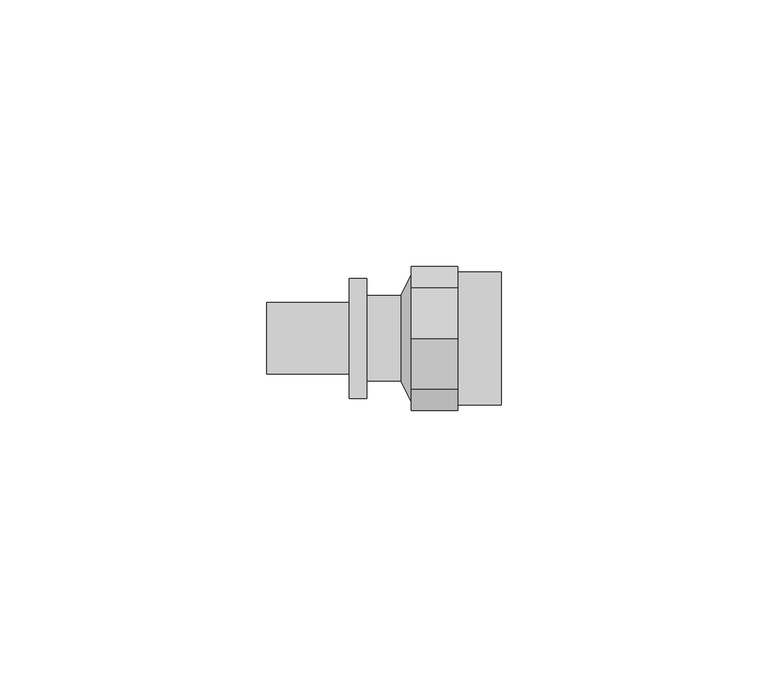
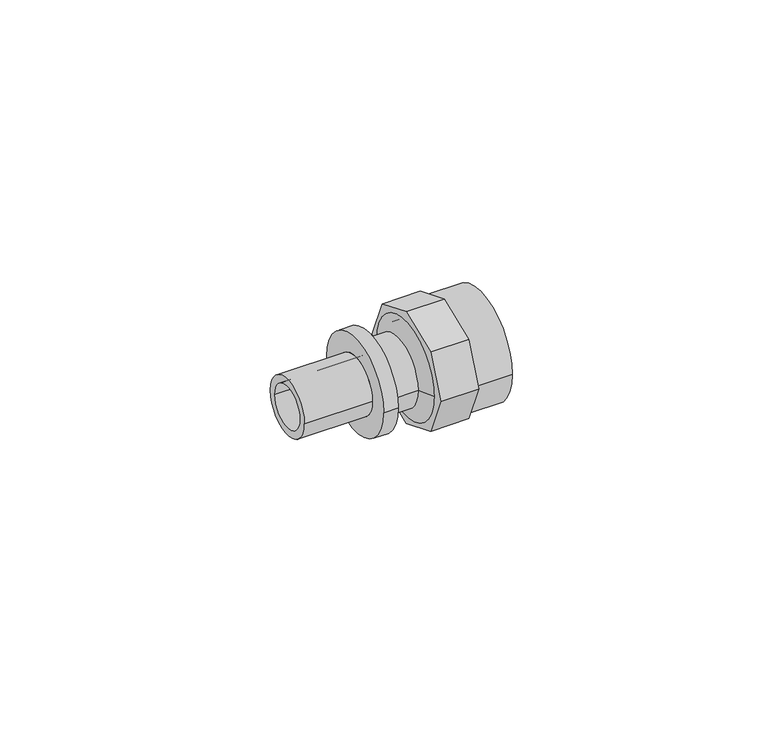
"""IFC4 building model written with IfcOpenShell, lengths in millimetres: pipe fitting geometry, REHAU_RAUTITAN_Adaptor_RX+, with internal thread : REHAU_RAUTITAN_Adaptor_RX+, with internal thread."""

from ifc_helpers import new_model, si_unit, point, frame, origin, origin_2d, place, context, project, spatial, polyline, circle_curve, trimmed, segment, composite_curve, outline, extrude, source, transform, mapped, element, save
from ifc_brep_helpers import plane_surface, cylinder_surface, revolved_surface, advanced_brep


def pipe_fitting_cb1c4b1c(model_context):
    return source(origin(), model_context, "Body", "SolidModel", [
        extrude(outline(polyline([(-9.5670858, 9.5670858), (0.0, 13.5299025), (9.5670858, 9.5670858), (13.5299025, 0.0), (9.5670858, -9.5670858), (0.0, -13.5299025), (-9.5670858, -9.5670858), (-13.5299025, 0.0), (-9.5670858, 9.5670858)]), holes=[composite_curve([segment(trimmed(circle_curve(origin_2d(), 9.5), [point((-9.5, 0.0))], [point((9.5, 0.0))], True, "CARTESIAN"), True, "CONTINUOUS"), segment(trimmed(circle_curve(origin_2d(), 9.5), [point((9.5, 0.0))], [point((-9.5, 0.0))], True, "CARTESIAN"), True, "CONTINUOUS")], self_intersect=False)]), frame((-4.35, 0.0, 0.0), z_axis=(1.0, 0.0, 0.0), x_axis=(0.0, 1.0, 0.0)), (0.0, 0.0, 1.0), 8.7),
        extrude(outline(composite_curve([segment(trimmed(circle_curve(origin_2d(), 12.5), [point((-12.5, 0.0))], [point((12.5, 0.0))], False, "CARTESIAN"), True, "CONTINUOUS"), segment(trimmed(circle_curve(origin_2d(), 12.5), [point((12.5, 0.0))], [point((-12.5, 0.0))], False, "CARTESIAN"), True, "CONTINUOUS")], self_intersect=False), holes=[composite_curve([segment(trimmed(circle_curve(origin_2d(), 10.34), [point((-10.34, 0.0))], [point((10.34, 0.0))], True, "CARTESIAN"), True, "CONTINUOUS"), segment(trimmed(circle_curve(origin_2d(), 10.34), [point((10.34, 0.0))], [point((-10.34, 0.0))], True, "CARTESIAN"), True, "CONTINUOUS")], self_intersect=False)]), frame((4.35, 0.0, 0.0), z_axis=(1.0, 0.0, 0.0), x_axis=(0.0, 1.0, 0.0)), (0.0, 0.0, 1.0), 8.25),
        advanced_brep(
        [(-6.3, 8.0, 0.0), (-6.3, -8.0, 0.0), (-12.69, -8.0, 0.0), (-12.69, 8.0, 0.0), (-4.02, 12.5, 0.0), (-4.02, -12.5, 0.0), (-6.3, 5.4, 0.0), (-6.3, -5.4, 0.0), (-4.02, -10.34, 0.0), (-4.02, 10.34, 0.0), (-31.49, 4.95, 0.0), (-31.49, -4.95, 0.0), (-12.69, -4.95, 0.0), (-12.69, 4.95, 0.0), (-15.99, 6.725, 0.0), (-15.99, -6.725, 0.0), (-31.49, -6.725, 0.0), (-31.49, 6.725, 0.0), (-12.69, 11.25, 0.0), (-12.69, -11.25, 0.0), (-15.99, -11.25, 0.0), (-15.99, 11.25, 0.0)],
        [
            (0, 1, circle_curve(frame((-6.3, 0.0, 0.0), z_axis=(-1.0, 0.0, 0.0), x_axis=(0.0, -1.0, 0.0)), 8.0)),
            (1, 2),
            (2, 3, circle_curve(frame((-12.69, 0.0, 0.0), z_axis=(1.0, 0.0, 0.0), x_axis=(0.0, -1.0, 0.0)), 8.0)),
            (3, 0),
            (4, 5, circle_curve(frame((-4.02, 0.0, 0.0), z_axis=(-1.0, 0.0, 0.0), x_axis=(0.0, -1.0, 0.0)), 12.5)),
            (5, 1),
            (0, 4),
            (6, 7, circle_curve(frame((-6.3, 0.0, 0.0), z_axis=(-1.0, 0.0, 0.0), x_axis=(0.0, -1.0, 0.0)), 5.4)),
            (7, 8),
            (8, 9, circle_curve(frame((-4.02, 0.0, 0.0), z_axis=(1.0, 0.0, 0.0), x_axis=(0.0, -1.0, 0.0)), 10.34)),
            (9, 6),
            (10, 11, circle_curve(frame((-31.49, 0.0, 0.0), z_axis=(-1.0, 0.0, 0.0), x_axis=(0.0, -1.0, 0.0)), 4.95)),
            (11, 12),
            (12, 13, circle_curve(frame((-12.69, 0.0, 0.0), z_axis=(1.0, 0.0, 0.0), x_axis=(0.0, -1.0, 0.0)), 4.95)),
            (13, 10),
            (14, 15, circle_curve(frame((-15.99, 0.0, 0.0), z_axis=(-1.0, 0.0, 0.0), x_axis=(0.0, -1.0, 0.0)), 6.725)),
            (15, 16),
            (16, 17, circle_curve(frame((-31.49, 0.0, 0.0), z_axis=(1.0, 0.0, 0.0), x_axis=(0.0, -1.0, 0.0)), 6.725)),
            (17, 14),
            (18, 19, circle_curve(frame((-12.69, 0.0, 0.0), z_axis=(-1.0, 0.0, 0.0), x_axis=(0.0, -1.0, 0.0)), 11.25)),
            (19, 20),
            (20, 21, circle_curve(frame((-15.99, 0.0, 0.0), z_axis=(1.0, 0.0, 0.0), x_axis=(0.0, -1.0, 0.0)), 11.25)),
            (21, 18),
            (18, 19, circle_curve(frame((-12.69, 0.0, 0.0), z_axis=(1.0, 0.0, 0.0), x_axis=(0.0, 1.0, 0.0)), 11.25)),
            (2, 3, circle_curve(frame((-12.69, 0.0, 0.0), z_axis=(-1.0, 0.0, 0.0), x_axis=(0.0, 1.0, 0.0)), 8.0)),
            (1, 0, circle_curve(frame((-6.3, 0.0, 0.0), z_axis=(-1.0, 0.0, 0.0), x_axis=(0.0, 1.0, 0.0)), 8.0)),
            (5, 4, circle_curve(frame((-4.02, 0.0, 0.0), z_axis=(-1.0, 0.0, 0.0), x_axis=(0.0, 1.0, 0.0)), 12.5)),
            (7, 6, circle_curve(frame((-6.3, 0.0, 0.0), z_axis=(-1.0, 0.0, 0.0), x_axis=(0.0, 1.0, 0.0)), 5.4)),
            (9, 8, circle_curve(frame((-4.02, 0.0, 0.0), z_axis=(1.0, 0.0, 0.0), x_axis=(0.0, 1.0, 0.0)), 10.34)),
            (11, 10, circle_curve(frame((-31.49, 0.0, 0.0), z_axis=(-1.0, 0.0, 0.0), x_axis=(0.0, 1.0, 0.0)), 4.95)),
            (13, 12, circle_curve(frame((-12.69, 0.0, 0.0), z_axis=(1.0, 0.0, 0.0), x_axis=(0.0, 1.0, 0.0)), 4.95)),
            (16, 17, circle_curve(frame((-31.49, 0.0, 0.0), z_axis=(-1.0, 0.0, 0.0), x_axis=(0.0, 1.0, 0.0)), 6.725)),
            (15, 14, circle_curve(frame((-15.99, 0.0, 0.0), z_axis=(-1.0, 0.0, 0.0), x_axis=(0.0, 1.0, 0.0)), 6.725)),
            (20, 21, circle_curve(frame((-15.99, 0.0, 0.0), z_axis=(-1.0, 0.0, 0.0), x_axis=(0.0, 1.0, 0.0)), 11.25)),
            (12, 7),
            (6, 13),
        ],
        [
            cylinder_surface(frame((0.0, 0.0, 0.0), z_axis=(1.0, 0.0, 0.0), x_axis=(0.0, -1.0, 0.0)), 8.0),
            revolved_surface(polyline([(-6.3, -8.0, 0.0), (-4.02, -12.5, 0.0)]), (0.0, 0.0, 0.0), (1.0, 0.0, 0.0)),
            revolved_surface(polyline([(-4.02, -10.34, 0.0), (-6.3, -5.4, 0.0)]), (0.0, 0.0, 0.0), (1.0, 0.0, 0.0)),
            revolved_surface(polyline([(-12.69, -4.95, 0.0), (-31.49, -4.95, 0.0)]), (0.0, 0.0, 0.0), (1.0, 0.0, 0.0)),
            cylinder_surface(frame((0.0, 0.0, 0.0), z_axis=(1.0, 0.0, 0.0), x_axis=(0.0, -1.0, 0.0)), 6.725),
            cylinder_surface(frame((0.0, 0.0, 0.0), z_axis=(1.0, 0.0, 0.0), x_axis=(0.0, -1.0, 0.0)), 11.25),
            plane_surface(frame((-12.69, 0.0, 0.0), z_axis=(1.0, 0.0, 0.0), x_axis=(0.0, 1.0, 0.0))),
            cylinder_surface(frame((0.0, 0.0, 0.0), z_axis=(1.0, 0.0, 0.0), x_axis=(0.0, 1.0, 0.0)), 8.0),
            revolved_surface(polyline([(-6.3, 8.0, 0.0), (-4.02, 12.5, 0.0)]), (0.0, 0.0, 0.0), (1.0, 0.0, 0.0)),
            revolved_surface(polyline([(-4.02, 10.34, 0.0), (-6.3, 5.4, 0.0)]), (0.0, 0.0, 0.0), (1.0, 0.0, 0.0)),
            revolved_surface(polyline([(-12.69, 4.95, 0.0), (-31.49, 4.95, 0.0)]), (0.0, 0.0, 0.0), (1.0, 0.0, 0.0)),
            plane_surface(frame((-31.49, 0.0, 0.0), z_axis=(-1.0, 0.0, 0.0), x_axis=(0.0, 1.0, 0.0))),
            cylinder_surface(frame((0.0, 0.0, 0.0), z_axis=(1.0, 0.0, 0.0), x_axis=(0.0, 1.0, 0.0)), 6.725),
            plane_surface(frame((-15.99, 0.0, 0.0), z_axis=(-1.0, 0.0, 0.0), x_axis=(0.0, 1.0, 0.0))),
            cylinder_surface(frame((0.0, 0.0, 0.0), z_axis=(1.0, 0.0, 0.0), x_axis=(0.0, 1.0, 0.0)), 11.25),
            revolved_surface(polyline([(-6.3, -5.4, 0.0), (-12.69, -4.95, 0.0)]), (0.0, 0.0, 0.0), (1.0, 0.0, 0.0)),
            revolved_surface(polyline([(-6.3, 5.4, 0.0), (-12.69, 4.95, 0.0)]), (0.0, 0.0, 0.0), (1.0, 0.0, 0.0)),
            plane_surface(frame((-4.02, 0.0, 0.0), z_axis=(1.0, 0.0, 0.0), x_axis=(0.0, 1.0, 0.0))),
        ],
        [
            (0, [[1, 2, 3, 4]]),
            (1, [[5, 6, -1, 7]]),
            (2, [[8, 9, 10, 11]]),
            (3, [[12, 13, 14, 15]]),
            (4, [[16, 17, 18, 19]]),
            (5, [[20, 21, 22, 23]]),
            (6, [[24, -20], [25, -3]]),
            (7, [[26, -4, -25, -2]]),
            (8, [[27, -7, -26, -6]]),
            (9, [[28, -11, 29, -9]]),
            (10, [[30, -15, 31, -13]]),
            (11, [[32, -18], [-30, -12]]),
            (12, [[33, -19, -32, -17]]),
            (13, [[34, -22], [-33, -16]]),
            (14, [[-24, -23, -34, -21]]),
            (15, [[-14, 35, -8, 36]]),
            (16, [[-31, -36, -28, -35]]),
            (17, [[-27, -5], [-29, -10]]),
        ],
    ),
    ])


if __name__ == "__main__":
    model = new_model("IFC4")
    model_context = context("Model", 3, world=origin())
    ifc_project = project(units=[si_unit("LENGTHUNIT", "METRE", prefix="MILLI")], contexts=[model_context])
    site = spatial("IfcSite", under=ifc_project)
    building = spatial("IfcBuilding", under=site)
    placement = place(None, origin())
    pipe_fitting_shape = pipe_fitting_cb1c4b1c(model_context)
    element("IfcPipeFitting", 1, ObjectType="REHAU_RAUTITAN_Adaptor_RX+, with internal thread : REHAU_RAUTITAN_Adaptor_RX+, with internal thread", at=placement, inside=building, context=model_context, shape_type="MappedRepresentation", body=[
        mapped(pipe_fitting_shape, transform((0.0, 0.0, 0.0), x_axis=(1.0, 0.0, 0.0), y_axis=(0.0, 1.0, 0.0), z_axis=(0.0, 0.0, 1.0))),
    ])
    save(model, "model.ifc")
